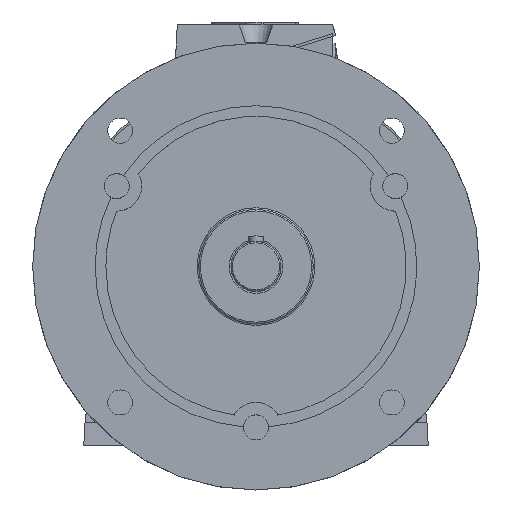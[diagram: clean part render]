
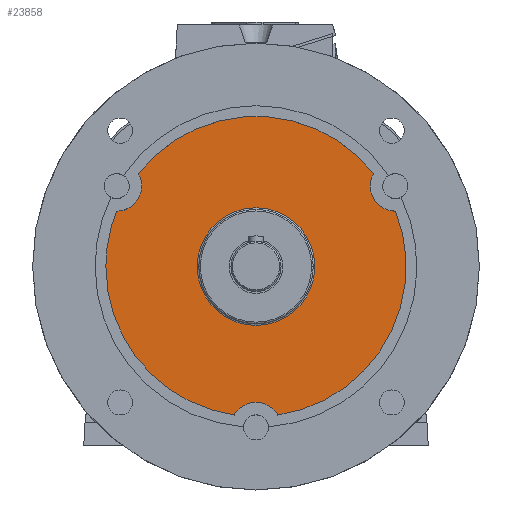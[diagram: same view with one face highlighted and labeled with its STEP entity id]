
A CAD part, top view. The second image highlights one B-rep face of the part: STEP entity #23858.
In plain terms, the highlighted planar face has unit normal (0, 0, 1).
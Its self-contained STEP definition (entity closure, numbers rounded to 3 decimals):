
#5 = CARTESIAN_POINT ( 'NONE',  ( 0., 84., 28. ) ) ;
#576 = AXIS2_PLACEMENT_3D ( 'NONE', #15422, #23269, #11249 ) ;
#598 = EDGE_CURVE ( 'NONE', #17351, #7612, #7360, .T. ) ;
#1127 = CARTESIAN_POINT ( 'NONE',  ( 12.188, -83.111, 28. ) ) ;
#1719 = ORIENTED_EDGE ( 'NONE', *, *, #9147, .T. ) ;
#1857 = AXIS2_PLACEMENT_3D ( 'NONE', #3172, #19901, #14068 ) ;
#2138 = CIRCLE ( 'NONE', #2912, 84. ) ;
#2187 = CIRCLE ( 'NONE', #15601, 84. ) ;
#2213 = EDGE_CURVE ( 'NONE', #4120, #2752, #2842, .T. ) ;
#2752 = VERTEX_POINT ( 'NONE', #1127 ) ;
#2776 = DIRECTION ( 'NONE',  ( -1., 0., 0. ) ) ;
#2842 = CIRCLE ( 'NONE', #24224, 14. ) ;
#2912 = AXIS2_PLACEMENT_3D ( 'NONE', #15756, #12157, #16234 ) ;
#3172 = CARTESIAN_POINT ( 'NONE',  ( 77.942, 45., 28. ) ) ;
#3296 = DIRECTION ( 'NONE',  ( 0., 0., -1. ) ) ;
#3348 = CIRCLE ( 'NONE', #13634, 84. ) ;
#3602 = CARTESIAN_POINT ( 'NONE',  ( -32.9, 0., 28. ) ) ;
#4065 = EDGE_CURVE ( 'NONE', #23850, #2752, #3348, .T. ) ;
#4092 = PLANE ( 'NONE',  #20836 ) ;
#4120 = VERTEX_POINT ( 'NONE', #14036 ) ;
#4229 = ORIENTED_EDGE ( 'NONE', *, *, #2213, .T. ) ;
#4265 = EDGE_CURVE ( 'NONE', #5395, #18728, #2187, .T. ) ;
#4503 = CARTESIAN_POINT ( 'NONE',  ( 0., 0., 28. ) ) ;
#4786 = CARTESIAN_POINT ( 'NONE',  ( -77.942, 45., 28. ) ) ;
#5008 = CARTESIAN_POINT ( 'NONE',  ( -65.882, 52.111, 28. ) ) ;
#5179 = CARTESIAN_POINT ( 'NONE',  ( 32.9, 0., 28. ) ) ;
#5395 = VERTEX_POINT ( 'NONE', #21880 ) ;
#5465 = ORIENTED_EDGE ( 'NONE', *, *, #11246, .T. ) ;
#5585 = VERTEX_POINT ( 'NONE', #5008 ) ;
#5609 = CARTESIAN_POINT ( 'NONE',  ( 0., 0., 28. ) ) ;
#5634 = DIRECTION ( 'NONE',  ( 1., 0., 0. ) ) ;
#5778 = AXIS2_PLACEMENT_3D ( 'NONE', #11419, #3296, #23882 ) ;
#5885 = DIRECTION ( 'NONE',  ( 0., 0., -1. ) ) ;
#5935 = FACE_BOUND ( 'NONE', #8850, .T. ) ;
#6736 = EDGE_CURVE ( 'NONE', #5585, #9275, #9355, .T. ) ;
#7360 = CIRCLE ( 'NONE', #5778, 32.9 ) ;
#7612 = VERTEX_POINT ( 'NONE', #3602 ) ;
#8154 = CIRCLE ( 'NONE', #1857, 14. ) ;
#8319 = DIRECTION ( 'NONE',  ( 0., 0., -1. ) ) ;
#8453 = ORIENTED_EDGE ( 'NONE', *, *, #16554, .T. ) ;
#8805 = CARTESIAN_POINT ( 'NONE',  ( 0., 0., 28. ) ) ;
#8850 = EDGE_LOOP ( 'NONE', ( #5465, #17071 ) ) ;
#8983 = CARTESIAN_POINT ( 'NONE',  ( 65.882, 52.111, 28. ) ) ;
#9147 = EDGE_CURVE ( 'NONE', #5585, #9386, #13569, .T. ) ;
#9275 = VERTEX_POINT ( 'NONE', #8983 ) ;
#9355 = CIRCLE ( 'NONE', #23657, 84. ) ;
#9386 = VERTEX_POINT ( 'NONE', #23382 ) ;
#9770 = FACE_OUTER_BOUND ( 'NONE', #20260, .T. ) ;
#11246 = EDGE_CURVE ( 'NONE', #7612, #17351, #19813, .T. ) ;
#11249 = DIRECTION ( 'NONE',  ( 1., 0., 0. ) ) ;
#11419 = CARTESIAN_POINT ( 'NONE',  ( 0., 0., 28. ) ) ;
#11424 = ORIENTED_EDGE ( 'NONE', *, *, #15841, .F. ) ;
#11553 = DIRECTION ( 'NONE',  ( -1., 0., 0. ) ) ;
#11774 = EDGE_CURVE ( 'NONE', #23850, #9275, #8154, .T. ) ;
#11966 = CARTESIAN_POINT ( 'NONE',  ( -78.07, 31.001, 28. ) ) ;
#12157 = DIRECTION ( 'NONE',  ( 0., 0., -1. ) ) ;
#12271 = AXIS2_PLACEMENT_3D ( 'NONE', #19193, #13122, #22582 ) ;
#13122 = DIRECTION ( 'NONE',  ( 0., 0., -1. ) ) ;
#13569 = CIRCLE ( 'NONE', #19915, 14. ) ;
#13625 = ORIENTED_EDGE ( 'NONE', *, *, #4065, .F. ) ;
#13634 = AXIS2_PLACEMENT_3D ( 'NONE', #4503, #8319, #2776 ) ;
#14036 = CARTESIAN_POINT ( 'NONE',  ( -12.188, -83.111, 28. ) ) ;
#14068 = DIRECTION ( 'NONE',  ( 1., 0., 0. ) ) ;
#15364 = CARTESIAN_POINT ( 'NONE',  ( 78.07, 31.001, 28. ) ) ;
#15422 = CARTESIAN_POINT ( 'NONE',  ( -77.942, 45., 28. ) ) ;
#15601 = AXIS2_PLACEMENT_3D ( 'NONE', #8805, #23732, #22699 ) ;
#15756 = CARTESIAN_POINT ( 'NONE',  ( 0., 0., 28. ) ) ;
#15841 = EDGE_CURVE ( 'NONE', #4120, #5395, #2138, .T. ) ;
#16179 = DIRECTION ( 'NONE',  ( 1., 0., 0. ) ) ;
#16234 = DIRECTION ( 'NONE',  ( -1., 0., 0. ) ) ;
#16554 = EDGE_CURVE ( 'NONE', #9386, #18728, #19571, .T. ) ;
#16597 = ORIENTED_EDGE ( 'NONE', *, *, #11774, .T. ) ;
#16859 = DIRECTION ( 'NONE',  ( 1., 0., 0. ) ) ;
#17071 = ORIENTED_EDGE ( 'NONE', *, *, #598, .T. ) ;
#17351 = VERTEX_POINT ( 'NONE', #5179 ) ;
#17670 = DIRECTION ( 'NONE',  ( 0., 0., -1. ) ) ;
#18728 = VERTEX_POINT ( 'NONE', #11966 ) ;
#18948 = ORIENTED_EDGE ( 'NONE', *, *, #6736, .F. ) ;
#19076 = DIRECTION ( 'NONE',  ( 0., 0., 1. ) ) ;
#19193 = CARTESIAN_POINT ( 'NONE',  ( 0., 0., 28. ) ) ;
#19355 = ORIENTED_EDGE ( 'NONE', *, *, #4265, .F. ) ;
#19571 = CIRCLE ( 'NONE', #576, 14. ) ;
#19813 = CIRCLE ( 'NONE', #12271, 32.9 ) ;
#19901 = DIRECTION ( 'NONE',  ( 0., 0., -1. ) ) ;
#19915 = AXIS2_PLACEMENT_3D ( 'NONE', #4786, #17670, #16179 ) ;
#20260 = EDGE_LOOP ( 'NONE', ( #16597, #18948, #1719, #8453, #19355, #11424, #4229, #13625 ) ) ;
#20769 = DIRECTION ( 'NONE',  ( 0., 0., -1. ) ) ;
#20836 = AXIS2_PLACEMENT_3D ( 'NONE', #5, #19076, #16859 ) ;
#21880 = CARTESIAN_POINT ( 'NONE',  ( -84., 0., 28. ) ) ;
#22582 = DIRECTION ( 'NONE',  ( -1., 0., 0. ) ) ;
#22699 = DIRECTION ( 'NONE',  ( -1., 0., 0. ) ) ;
#22912 = CARTESIAN_POINT ( 'NONE',  ( 0., -90., 28. ) ) ;
#23269 = DIRECTION ( 'NONE',  ( 0., 0., -1. ) ) ;
#23382 = CARTESIAN_POINT ( 'NONE',  ( -63.942, 45., 28. ) ) ;
#23657 = AXIS2_PLACEMENT_3D ( 'NONE', #5609, #20769, #11553 ) ;
#23732 = DIRECTION ( 'NONE',  ( 0., 0., -1. ) ) ;
#23850 = VERTEX_POINT ( 'NONE', #15364 ) ;
#23858 = ADVANCED_FACE ( 'NONE', ( #9770, #5935 ), #4092, .T. ) ;
#23882 = DIRECTION ( 'NONE',  ( -1., 0., 0. ) ) ;
#24224 = AXIS2_PLACEMENT_3D ( 'NONE', #22912, #5885, #5634 ) ;
